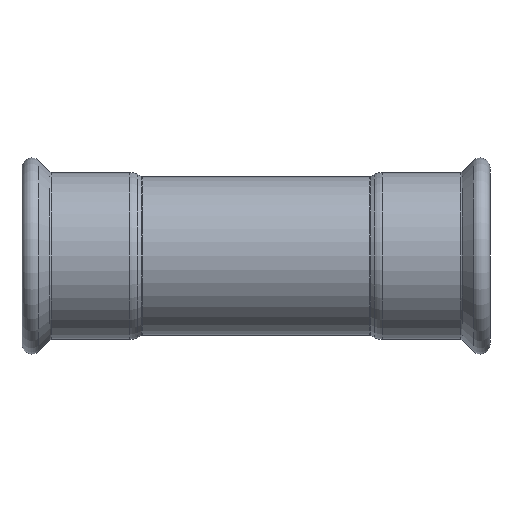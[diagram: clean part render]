
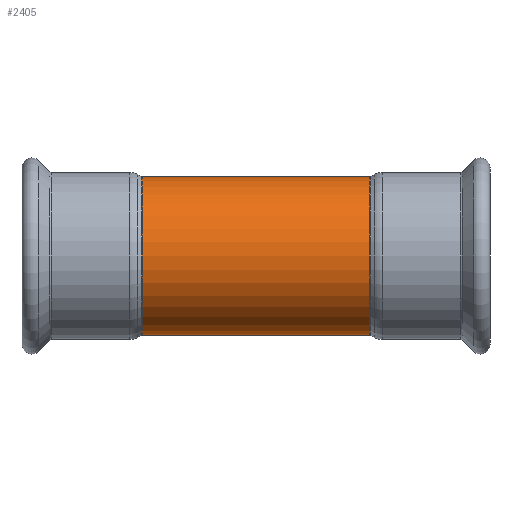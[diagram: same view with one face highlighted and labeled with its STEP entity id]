
A CAD part, front view. The second image highlights one B-rep face of the part: STEP entity #2405.
In plain terms, the highlighted cylindrical face has radius 43.95 mm (diameter 87.9 mm), a partial arc.
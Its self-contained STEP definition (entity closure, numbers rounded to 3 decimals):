
#375 = CARTESIAN_POINT ( 'NONE',  ( 63.056, 0., 0. ) ) ;
#563 = VERTEX_POINT ( 'NONE', #4109 ) ;
#598 = DIRECTION ( 'NONE',  ( -1., 0., 0. ) ) ;
#703 = DIRECTION ( 'NONE',  ( 0., 0., 1. ) ) ;
#848 = EDGE_LOOP ( 'NONE', ( #971, #2090, #3718, #4038 ) ) ;
#971 = ORIENTED_EDGE ( 'NONE', *, *, #1612, .F. ) ;
#1161 = CARTESIAN_POINT ( 'NONE',  ( 27.146, 0., -43.95 ) ) ;
#1267 = DIRECTION ( 'NONE',  ( -1., 0., 0. ) ) ;
#1442 = VECTOR ( 'NONE', #598, 1000. ) ;
#1548 = LINE ( 'NONE', #4231, #1442 ) ;
#1553 = CIRCLE ( 'NONE', #2778, 43.95 ) ;
#1612 = EDGE_CURVE ( 'NONE', #3673, #2419, #1910, .T. ) ;
#1696 = VERTEX_POINT ( 'NONE', #4288 ) ;
#1776 = DIRECTION ( 'NONE',  ( -1., 0., 0. ) ) ;
#1790 = DIRECTION ( 'NONE',  ( 0., 0., 1. ) ) ;
#1863 = CYLINDRICAL_SURFACE ( 'NONE', #2101, 43.95 ) ;
#1891 = CARTESIAN_POINT ( 'NONE',  ( 27.146, 0., 0. ) ) ;
#1910 = LINE ( 'NONE', #1161, #4266 ) ;
#2090 = ORIENTED_EDGE ( 'NONE', *, *, #2505, .T. ) ;
#2100 = DIRECTION ( 'NONE',  ( -1., 0., 0. ) ) ;
#2101 = AXIS2_PLACEMENT_3D ( 'NONE', #1891, #1267, #2232 ) ;
#2198 = EDGE_CURVE ( 'NONE', #2419, #1696, #3054, .T. ) ;
#2232 = DIRECTION ( 'NONE',  ( 0., 0., 1. ) ) ;
#2405 = ADVANCED_FACE ( 'NONE', ( #3374 ), #1863, .T. ) ;
#2419 = VERTEX_POINT ( 'NONE', #2679 ) ;
#2477 = CARTESIAN_POINT ( 'NONE',  ( -63.056, 0., 0. ) ) ;
#2505 = EDGE_CURVE ( 'NONE', #3673, #563, #1553, .T. ) ;
#2679 = CARTESIAN_POINT ( 'NONE',  ( -63.056, 0., -43.95 ) ) ;
#2778 = AXIS2_PLACEMENT_3D ( 'NONE', #375, #3378, #703 ) ;
#3054 = CIRCLE ( 'NONE', #3756, 43.95 ) ;
#3374 = FACE_OUTER_BOUND ( 'NONE', #848, .T. ) ;
#3378 = DIRECTION ( 'NONE',  ( -1., 0., 0. ) ) ;
#3481 = CARTESIAN_POINT ( 'NONE',  ( 63.056, 0., -43.95 ) ) ;
#3673 = VERTEX_POINT ( 'NONE', #3481 ) ;
#3718 = ORIENTED_EDGE ( 'NONE', *, *, #4083, .T. ) ;
#3756 = AXIS2_PLACEMENT_3D ( 'NONE', #2477, #1776, #1790 ) ;
#4038 = ORIENTED_EDGE ( 'NONE', *, *, #2198, .F. ) ;
#4083 = EDGE_CURVE ( 'NONE', #563, #1696, #1548, .T. ) ;
#4109 = CARTESIAN_POINT ( 'NONE',  ( 63.056, 0., 43.95 ) ) ;
#4231 = CARTESIAN_POINT ( 'NONE',  ( 27.146, 0., 43.95 ) ) ;
#4266 = VECTOR ( 'NONE', #2100, 1000. ) ;
#4288 = CARTESIAN_POINT ( 'NONE',  ( -63.056, 0., 43.95 ) ) ;
